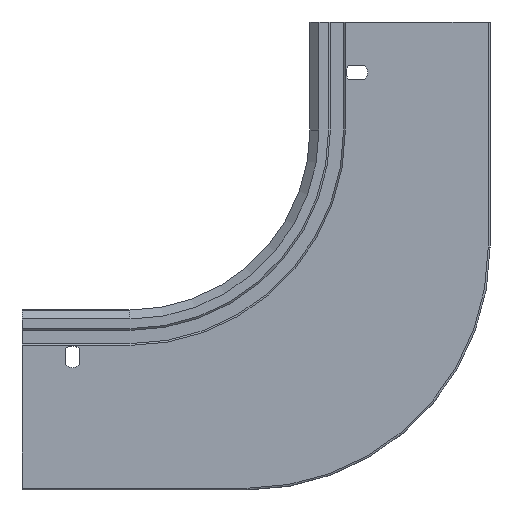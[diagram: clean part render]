
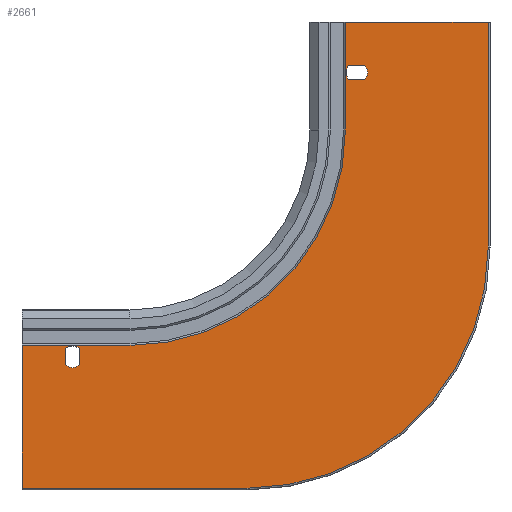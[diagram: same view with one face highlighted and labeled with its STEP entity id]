
A CAD part, left-side view. The second image highlights one B-rep face of the part: STEP entity #2661.
In plain terms, the highlighted planar face has unit normal (-1, 0, 0) as drawn and (0, -1, 0) by its records, which use the part's own axes.
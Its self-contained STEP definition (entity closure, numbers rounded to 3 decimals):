
#49 = DIRECTION ( 'NONE',  ( 0., -1., 0. ) ) ;
#77 = VERTEX_POINT ( 'NONE', #1468 ) ;
#81 = CIRCLE ( 'NONE', #2906, 134. ) ;
#82 = VECTOR ( 'NONE', #3199, 1000. ) ;
#101 = CARTESIAN_POINT ( 'NONE',  ( 0., 0., -32. ) ) ;
#150 = EDGE_CURVE ( 'NONE', #4427, #77, #4895, .T. ) ;
#289 = FACE_BOUND ( 'NONE', #387, .T. ) ;
#387 = EDGE_LOOP ( 'NONE', ( #2182, #4857, #5004, #414 ) ) ;
#402 = LINE ( 'NONE', #496, #82 ) ;
#412 = LINE ( 'NONE', #2312, #4919 ) ;
#414 = ORIENTED_EDGE ( 'NONE', *, *, #2399, .F. ) ;
#415 = EDGE_CURVE ( 'NONE', #2296, #434, #3954, .T. ) ;
#434 = VERTEX_POINT ( 'NONE', #1007 ) ;
#446 = DIRECTION ( 'NONE',  ( 0., 0., 1. ) ) ;
#496 = CARTESIAN_POINT ( 'NONE',  ( 236., 0., 0. ) ) ;
#537 = EDGE_CURVE ( 'NONE', #4712, #3950, #4082, .T. ) ;
#577 = CARTESIAN_POINT ( 'NONE',  ( 78.472, 0., -24. ) ) ;
#628 = CARTESIAN_POINT ( 'NONE',  ( 74., 0., -28. ) ) ;
#663 = VECTOR ( 'NONE', #2096, 1000. ) ;
#735 = AXIS2_PLACEMENT_3D ( 'NONE', #5689, #49, #2409 ) ;
#769 = EDGE_CURVE ( 'NONE', #3769, #3090, #2856, .T. ) ;
#864 = CARTESIAN_POINT ( 'NONE',  ( 232., 0., -180. ) ) ;
#872 = DIRECTION ( 'NONE',  ( 0., 0., -1. ) ) ;
#992 = CARTESIAN_POINT ( 'NONE',  ( 69.528, 0., -32. ) ) ;
#1007 = CARTESIAN_POINT ( 'NONE',  ( 80.331, 0., 0. ) ) ;
#1128 = ORIENTED_EDGE ( 'NONE', *, *, #3307, .F. ) ;
#1181 = CARTESIAN_POINT ( 'NONE',  ( 74., 0., -28. ) ) ;
#1238 = EDGE_CURVE ( 'NONE', #77, #434, #1871, .T. ) ;
#1463 = CARTESIAN_POINT ( 'NONE',  ( 260., 0., -179.669 ) ) ;
#1468 = CARTESIAN_POINT ( 'NONE',  ( 1., 0., 0. ) ) ;
#1569 = ORIENTED_EDGE ( 'NONE', *, *, #537, .F. ) ;
#1613 = CARTESIAN_POINT ( 'NONE',  ( 200., 0., -179.669 ) ) ;
#1629 = VERTEX_POINT ( 'NONE', #1463 ) ;
#1634 = CARTESIAN_POINT ( 'NONE',  ( 236., 0., -190.472 ) ) ;
#1797 = DIRECTION ( 'NONE',  ( 0., 0., -1. ) ) ;
#1852 = DIRECTION ( 'NONE',  ( 0., -1., 0. ) ) ;
#1871 = LINE ( 'NONE', #3697, #1985 ) ;
#1985 = VECTOR ( 'NONE', #3765, 1000. ) ;
#2029 = CARTESIAN_POINT ( 'NONE',  ( 78.472, 0., -32. ) ) ;
#2057 = LINE ( 'NONE', #101, #2197 ) ;
#2096 = DIRECTION ( 'NONE',  ( 1., 0., 0. ) ) ;
#2129 = CARTESIAN_POINT ( 'NONE',  ( 200., 0., -179.669 ) ) ;
#2143 = CARTESIAN_POINT ( 'NONE',  ( 228., 0., -181.528 ) ) ;
#2155 = DIRECTION ( 'NONE',  ( 0., -1., 0. ) ) ;
#2170 = AXIS2_PLACEMENT_3D ( 'NONE', #5135, #3299, #4680 ) ;
#2182 = ORIENTED_EDGE ( 'NONE', *, *, #3049, .F. ) ;
#2197 = VECTOR ( 'NONE', #5742, 1000. ) ;
#2224 = VERTEX_POINT ( 'NONE', #992 ) ;
#2248 = DIRECTION ( 'NONE',  ( 0., 0., -1. ) ) ;
#2277 = DIRECTION ( 'NONE',  ( -1., 0., 0. ) ) ;
#2296 = VERTEX_POINT ( 'NONE', #4677 ) ;
#2311 = VECTOR ( 'NONE', #2662, 1000. ) ;
#2312 = CARTESIAN_POINT ( 'NONE',  ( 0., 0., -24. ) ) ;
#2315 = PLANE ( 'NONE',  #3158 ) ;
#2350 = DIRECTION ( 'NONE',  ( 0., 0., -1. ) ) ;
#2399 = EDGE_CURVE ( 'NONE', #2224, #2492, #2057, .T. ) ;
#2409 = DIRECTION ( 'NONE',  ( 0., 0., -1. ) ) ;
#2492 = VERTEX_POINT ( 'NONE', #2029 ) ;
#2583 = CARTESIAN_POINT ( 'NONE',  ( 80.331, 0., -60. ) ) ;
#2661 = ADVANCED_FACE ( 'NONE', ( #289, #5927, #2670 ), #2315, .T. ) ;
#2662 = DIRECTION ( 'NONE',  ( -1., 0., 0. ) ) ;
#2670 = FACE_OUTER_BOUND ( 'NONE', #5225, .T. ) ;
#2746 = VECTOR ( 'NONE', #3104, 1000. ) ;
#2747 = LINE ( 'NONE', #4495, #6010 ) ;
#2779 = CARTESIAN_POINT ( 'NONE',  ( 232., 0., -186. ) ) ;
#2856 = CIRCLE ( 'NONE', #2170, 6. ) ;
#2889 = VERTEX_POINT ( 'NONE', #577 ) ;
#2906 = AXIS2_PLACEMENT_3D ( 'NONE', #3652, #5074, #446 ) ;
#3001 = VECTOR ( 'NONE', #2248, 1000. ) ;
#3015 = DIRECTION ( 'NONE',  ( 0., -1., 0. ) ) ;
#3049 = EDGE_CURVE ( 'NONE', #5848, #2224, #5893, .T. ) ;
#3083 = CIRCLE ( 'NONE', #5132, 6. ) ;
#3085 = ORIENTED_EDGE ( 'NONE', *, *, #5929, .F. ) ;
#3090 = VERTEX_POINT ( 'NONE', #1634 ) ;
#3104 = DIRECTION ( 'NONE',  ( 0., 0., 1. ) ) ;
#3146 = LINE ( 'NONE', #5005, #3001 ) ;
#3158 = AXIS2_PLACEMENT_3D ( 'NONE', #4147, #1852, #2350 ) ;
#3199 = DIRECTION ( 'NONE',  ( 0., 0., 1. ) ) ;
#3252 = EDGE_CURVE ( 'NONE', #2889, #5848, #412, .T. ) ;
#3299 = DIRECTION ( 'NONE',  ( 0., -1., 0. ) ) ;
#3307 = EDGE_CURVE ( 'NONE', #2296, #4947, #3537, .T. ) ;
#3312 = ORIENTED_EDGE ( 'NONE', *, *, #5740, .F. ) ;
#3376 = AXIS2_PLACEMENT_3D ( 'NONE', #628, #4866, #4368 ) ;
#3514 = ORIENTED_EDGE ( 'NONE', *, *, #415, .T. ) ;
#3537 = CIRCLE ( 'NONE', #735, 119.669 ) ;
#3544 = ORIENTED_EDGE ( 'NONE', *, *, #150, .F. ) ;
#3633 = ORIENTED_EDGE ( 'NONE', *, *, #4046, .F. ) ;
#3652 = CARTESIAN_POINT ( 'NONE',  ( 135., 0., -125. ) ) ;
#3697 = CARTESIAN_POINT ( 'NONE',  ( 80., 0., 0. ) ) ;
#3727 = ORIENTED_EDGE ( 'NONE', *, *, #4744, .F. ) ;
#3765 = DIRECTION ( 'NONE',  ( 1., 0., 0. ) ) ;
#3769 = VERTEX_POINT ( 'NONE', #4791 ) ;
#3874 = EDGE_LOOP ( 'NONE', ( #5230, #3085, #1569, #4782, #3727 ) ) ;
#3887 = VERTEX_POINT ( 'NONE', #5682 ) ;
#3889 = VECTOR ( 'NONE', #4888, 1000. ) ;
#3909 = ORIENTED_EDGE ( 'NONE', *, *, #1238, .F. ) ;
#3950 = VERTEX_POINT ( 'NONE', #2143 ) ;
#3954 = LINE ( 'NONE', #2583, #3889 ) ;
#3962 = CARTESIAN_POINT ( 'NONE',  ( 1., 0., -125. ) ) ;
#3973 = CARTESIAN_POINT ( 'NONE',  ( 260., 0., -259. ) ) ;
#3980 = AXIS2_PLACEMENT_3D ( 'NONE', #5440, #2155, #872 ) ;
#4046 = EDGE_CURVE ( 'NONE', #1629, #5793, #2747, .T. ) ;
#4077 = EDGE_CURVE ( 'NONE', #3887, #4712, #3083, .T. ) ;
#4082 = CIRCLE ( 'NONE', #3980, 6. ) ;
#4147 = CARTESIAN_POINT ( 'NONE',  ( 0., 0., 0. ) ) ;
#4225 = AXIS2_PLACEMENT_3D ( 'NONE', #1181, #3015, #4479 ) ;
#4242 = CARTESIAN_POINT ( 'NONE',  ( 1., 0., -125. ) ) ;
#4368 = DIRECTION ( 'NONE',  ( 0., 0., -1. ) ) ;
#4427 = VERTEX_POINT ( 'NONE', #4242 ) ;
#4479 = DIRECTION ( 'NONE',  ( 0., 0., -1. ) ) ;
#4495 = CARTESIAN_POINT ( 'NONE',  ( 260., 0., -260. ) ) ;
#4677 = CARTESIAN_POINT ( 'NONE',  ( 80.331, 0., -60. ) ) ;
#4680 = DIRECTION ( 'NONE',  ( 0., 0., -1. ) ) ;
#4698 = EDGE_CURVE ( 'NONE', #5793, #4878, #5038, .T. ) ;
#4712 = VERTEX_POINT ( 'NONE', #864 ) ;
#4744 = EDGE_CURVE ( 'NONE', #3090, #3887, #402, .T. ) ;
#4782 = ORIENTED_EDGE ( 'NONE', *, *, #4077, .F. ) ;
#4791 = CARTESIAN_POINT ( 'NONE',  ( 228., 0., -190.472 ) ) ;
#4819 = CARTESIAN_POINT ( 'NONE',  ( 135., 0., -259. ) ) ;
#4857 = ORIENTED_EDGE ( 'NONE', *, *, #3252, .F. ) ;
#4866 = DIRECTION ( 'NONE',  ( 0., -1., 0. ) ) ;
#4878 = VERTEX_POINT ( 'NONE', #4819 ) ;
#4888 = DIRECTION ( 'NONE',  ( 0., 0., 1. ) ) ;
#4889 = LINE ( 'NONE', #2129, #663 ) ;
#4895 = LINE ( 'NONE', #3962, #2746 ) ;
#4919 = VECTOR ( 'NONE', #2277, 1000. ) ;
#4947 = VERTEX_POINT ( 'NONE', #1613 ) ;
#4963 = ORIENTED_EDGE ( 'NONE', *, *, #4698, .F. ) ;
#5004 = ORIENTED_EDGE ( 'NONE', *, *, #5776, .F. ) ;
#5005 = CARTESIAN_POINT ( 'NONE',  ( 228., 0., 0. ) ) ;
#5028 = DIRECTION ( 'NONE',  ( 0., -1., 0. ) ) ;
#5038 = LINE ( 'NONE', #3973, #2311 ) ;
#5048 = ORIENTED_EDGE ( 'NONE', *, *, #5802, .F. ) ;
#5074 = DIRECTION ( 'NONE',  ( 0., 1., 0. ) ) ;
#5132 = AXIS2_PLACEMENT_3D ( 'NONE', #2779, #5028, #5549 ) ;
#5135 = CARTESIAN_POINT ( 'NONE',  ( 232., 0., -186. ) ) ;
#5225 = EDGE_LOOP ( 'NONE', ( #3544, #3312, #4963, #3633, #5048, #1128, #3514, #3909 ) ) ;
#5230 = ORIENTED_EDGE ( 'NONE', *, *, #769, .F. ) ;
#5379 = CARTESIAN_POINT ( 'NONE',  ( 260., 0., -259. ) ) ;
#5440 = CARTESIAN_POINT ( 'NONE',  ( 232., 0., -186. ) ) ;
#5549 = DIRECTION ( 'NONE',  ( 0., 0., -1. ) ) ;
#5682 = CARTESIAN_POINT ( 'NONE',  ( 236., 0., -181.528 ) ) ;
#5689 = CARTESIAN_POINT ( 'NONE',  ( 200., 0., -60. ) ) ;
#5740 = EDGE_CURVE ( 'NONE', #4878, #4427, #81, .T. ) ;
#5742 = DIRECTION ( 'NONE',  ( 1., 0., 0. ) ) ;
#5776 = EDGE_CURVE ( 'NONE', #2492, #2889, #5809, .T. ) ;
#5793 = VERTEX_POINT ( 'NONE', #5379 ) ;
#5802 = EDGE_CURVE ( 'NONE', #4947, #1629, #4889, .T. ) ;
#5809 = CIRCLE ( 'NONE', #3376, 6. ) ;
#5848 = VERTEX_POINT ( 'NONE', #5952 ) ;
#5893 = CIRCLE ( 'NONE', #4225, 6. ) ;
#5927 = FACE_BOUND ( 'NONE', #3874, .T. ) ;
#5929 = EDGE_CURVE ( 'NONE', #3950, #3769, #3146, .T. ) ;
#5952 = CARTESIAN_POINT ( 'NONE',  ( 69.528, 0., -24. ) ) ;
#6010 = VECTOR ( 'NONE', #1797, 1000. ) ;
